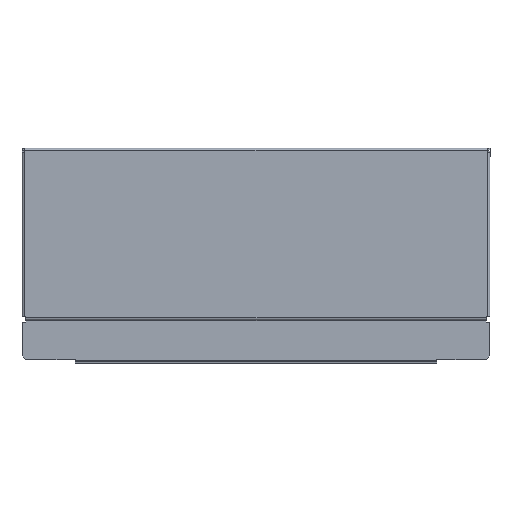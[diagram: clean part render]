
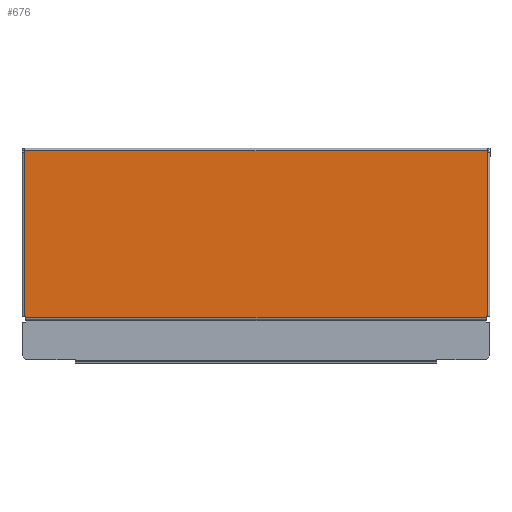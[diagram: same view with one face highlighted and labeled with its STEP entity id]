
A CAD part, front view. The second image highlights one B-rep face of the part: STEP entity #676.
In plain terms, the highlighted planar face has unit normal (0, -1, 0).
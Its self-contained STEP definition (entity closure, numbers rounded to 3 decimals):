
#6 = AXIS2_PLACEMENT_3D ( 'NONE', #373, #372, #371 ) ;
#10 = VERTEX_POINT ( 'NONE', #538 ) ;
#19 = VERTEX_POINT ( 'NONE', #530 ) ;
#44 = VERTEX_POINT ( 'NONE', #505 ) ;
#51 = VERTEX_POINT ( 'NONE', #498 ) ;
#71 = VERTEX_POINT ( 'NONE', #478 ) ;
#167 = DIRECTION ( 'NONE',  ( 0., 0., -1. ) ) ;
#196 = CARTESIAN_POINT ( 'NONE',  ( -91.5, -6., 101.385 ) ) ;
#231 = DIRECTION ( 'NONE',  ( 0., 0., -1. ) ) ;
#233 = CARTESIAN_POINT ( 'NONE',  ( -91.5, -6., 101.385 ) ) ;
#278 = DIRECTION ( 'NONE',  ( 1., 0., 0. ) ) ;
#288 = CARTESIAN_POINT ( 'NONE',  ( -92.5, -6., 83. ) ) ;
#315 = DIRECTION ( 'NONE',  ( 0., 0., -1. ) ) ;
#322 = CARTESIAN_POINT ( 'NONE',  ( 91.5, -6., 101.385 ) ) ;
#345 = VERTEX_POINT ( 'NONE', #450 ) ;
#371 = DIRECTION ( 'NONE',  ( 1., 0., 0. ) ) ;
#372 = DIRECTION ( 'NONE',  ( 0., -1., 0. ) ) ;
#373 = CARTESIAN_POINT ( 'NONE',  ( -92.5, -6., 17. ) ) ;
#374 = PLANE ( 'NONE',  #6 ) ;
#395 = DIRECTION ( 'NONE',  ( 0., 0., -1. ) ) ;
#398 = CARTESIAN_POINT ( 'NONE',  ( 91.5, -6., 101.385 ) ) ;
#405 = CARTESIAN_POINT ( 'NONE',  ( 91., -6., 17. ) ) ;
#419 = CARTESIAN_POINT ( 'NONE',  ( -91.5, -6., 17.5 ) ) ;
#422 = CARTESIAN_POINT ( 'NONE',  ( -91., -6., 17. ) ) ;
#423 = CARTESIAN_POINT ( 'NONE',  ( -91., -6., 17.5 ) ) ;
#429 = DIRECTION ( 'NONE',  ( 1., 0., 0. ) ) ;
#430 = CARTESIAN_POINT ( 'NONE',  ( 91., -6., 17.5 ) ) ;
#434 = DIRECTION ( 'NONE',  ( 0., 0., 1. ) ) ;
#436 = CARTESIAN_POINT ( 'NONE',  ( 91., -6., 15.3 ) ) ;
#441 = DIRECTION ( 'NONE',  ( 1., 0., 0. ) ) ;
#442 = CARTESIAN_POINT ( 'NONE',  ( -92.5, -6., 17. ) ) ;
#446 = DIRECTION ( 'NONE',  ( 0., 0., -1. ) ) ;
#448 = CARTESIAN_POINT ( 'NONE',  ( -91., -6., 17.5 ) ) ;
#450 = CARTESIAN_POINT ( 'NONE',  ( 91., -6., 17.5 ) ) ;
#453 = DIRECTION ( 'NONE',  ( 1., 0., 0. ) ) ;
#456 = CARTESIAN_POINT ( 'NONE',  ( -92.5, -6., 17.5 ) ) ;
#478 = CARTESIAN_POINT ( 'NONE',  ( 91.5, -6., 17.5 ) ) ;
#498 = CARTESIAN_POINT ( 'NONE',  ( 91.5, -6., 82.5 ) ) ;
#505 = CARTESIAN_POINT ( 'NONE',  ( 91.5, -6., 83. ) ) ;
#530 = CARTESIAN_POINT ( 'NONE',  ( -91.5, -6., 83. ) ) ;
#538 = CARTESIAN_POINT ( 'NONE',  ( -91.5, -6., 82.5 ) ) ;
#544 = VERTEX_POINT ( 'NONE', #423 ) ;
#545 = VERTEX_POINT ( 'NONE', #422 ) ;
#548 = VERTEX_POINT ( 'NONE', #419 ) ;
#562 = VERTEX_POINT ( 'NONE', #405 ) ;
#676 = ADVANCED_FACE ( 'NONE', ( #1962 ), #374, .T. ) ;
#973 = EDGE_LOOP ( 'NONE', ( #1950, #1949, #1948, #1947, #1946, #1945, #1944, #1943, #1942, #1941 ) ) ;
#1670 = EDGE_CURVE ( 'NONE', #10, #548, #2372, .T. ) ;
#1671 = EDGE_CURVE ( 'NONE', #548, #544, #2374, .T. ) ;
#1672 = EDGE_CURVE ( 'NONE', #544, #545, #2376, .T. ) ;
#1673 = EDGE_CURVE ( 'NONE', #545, #562, #2378, .T. ) ;
#1674 = EDGE_CURVE ( 'NONE', #562, #345, #2380, .T. ) ;
#1675 = EDGE_CURVE ( 'NONE', #345, #71, #2382, .T. ) ;
#1676 = EDGE_CURVE ( 'NONE', #51, #71, #2384, .T. ) ;
#1677 = EDGE_CURVE ( 'NONE', #44, #51, #2386, .T. ) ;
#1678 = EDGE_CURVE ( 'NONE', #19, #44, #2388, .T. ) ;
#1679 = EDGE_CURVE ( 'NONE', #19, #10, #2390, .T. ) ;
#1941 = ORIENTED_EDGE ( 'NONE', *, *, #1679, .T. ) ;
#1942 = ORIENTED_EDGE ( 'NONE', *, *, #1678, .F. ) ;
#1943 = ORIENTED_EDGE ( 'NONE', *, *, #1677, .F. ) ;
#1944 = ORIENTED_EDGE ( 'NONE', *, *, #1676, .F. ) ;
#1945 = ORIENTED_EDGE ( 'NONE', *, *, #1675, .T. ) ;
#1946 = ORIENTED_EDGE ( 'NONE', *, *, #1674, .T. ) ;
#1947 = ORIENTED_EDGE ( 'NONE', *, *, #1673, .T. ) ;
#1948 = ORIENTED_EDGE ( 'NONE', *, *, #1672, .T. ) ;
#1949 = ORIENTED_EDGE ( 'NONE', *, *, #1671, .T. ) ;
#1950 = ORIENTED_EDGE ( 'NONE', *, *, #1670, .T. ) ;
#1962 = FACE_OUTER_BOUND ( 'NONE', #973, .T. ) ;
#2372 = LINE ( 'NONE', #196, #2373 ) ;
#2373 = VECTOR ( 'NONE', #167, 1000. ) ;
#2374 = LINE ( 'NONE', #456, #2375 ) ;
#2375 = VECTOR ( 'NONE', #453, 1000. ) ;
#2376 = LINE ( 'NONE', #448, #2377 ) ;
#2377 = VECTOR ( 'NONE', #446, 1000. ) ;
#2378 = LINE ( 'NONE', #442, #2379 ) ;
#2379 = VECTOR ( 'NONE', #441, 1000. ) ;
#2380 = LINE ( 'NONE', #436, #2381 ) ;
#2381 = VECTOR ( 'NONE', #434, 1000. ) ;
#2382 = LINE ( 'NONE', #430, #2383 ) ;
#2383 = VECTOR ( 'NONE', #429, 1000. ) ;
#2384 = LINE ( 'NONE', #398, #2385 ) ;
#2385 = VECTOR ( 'NONE', #395, 1000. ) ;
#2386 = LINE ( 'NONE', #322, #2387 ) ;
#2387 = VECTOR ( 'NONE', #315, 1000. ) ;
#2388 = LINE ( 'NONE', #288, #2389 ) ;
#2389 = VECTOR ( 'NONE', #278, 1000. ) ;
#2390 = LINE ( 'NONE', #233, #2391 ) ;
#2391 = VECTOR ( 'NONE', #231, 1000. ) ;
